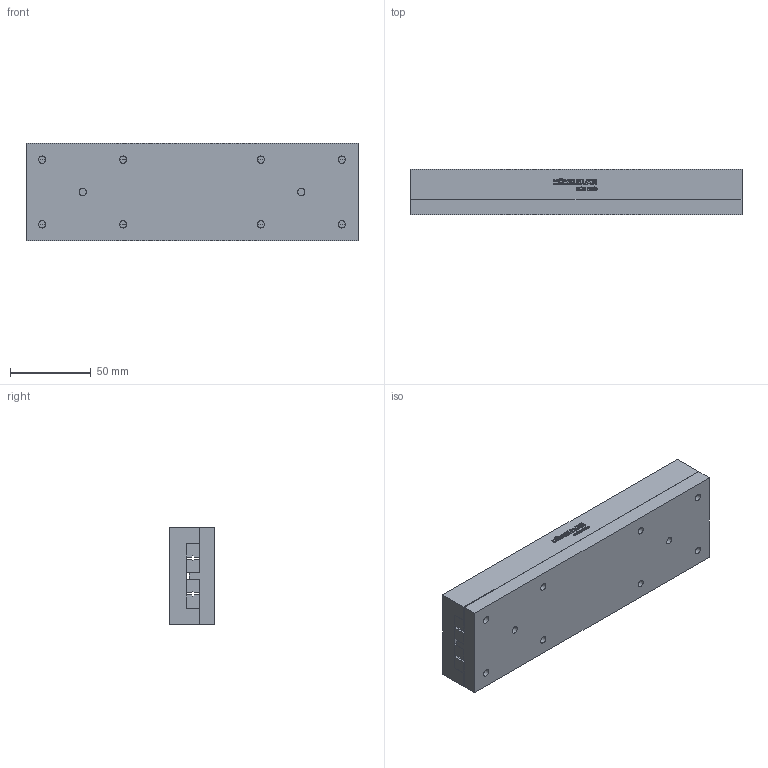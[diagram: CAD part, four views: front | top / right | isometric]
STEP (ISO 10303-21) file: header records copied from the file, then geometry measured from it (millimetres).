
FILE_DESCRIPTION(/* description */ ('STEP AP214'),/* implementation_level */ '2;1');
FILE_NAME(/* name */ 'NK 3-205-B(0)',/* time_stamp */ '2025-04-22T17:49:21+02:00',/* author */ ('License CC BY-ND 4.0'),/* organization */ ('CADENAS'),/* preprocessor_version */ 'ST-DEVELOPER v19.3',/* originating_system */ 'PARTsolutions',/* authorisation */ ' ');
FILE_SCHEMA (('AUTOMOTIVE_DESIGN {1 0 10303 214 3 1 1}'));
Length unit declared in the file: millimetre
Products named in the file (3): NK 3-205-B(0); NK 3-205-B_1; NK 3-205-B_2
Assembly tree (2 placements, depth 2):
  NK 3-205-B(0)
    NK 3-205-B_1
    NK 3-205-B_2
Bounding box: 205 x 28 x 60 mm (x, y, z)
Volume: 332233.4 mm3; surface area: 86852.3 mm2
Topology: 2 solids, 2 shells, 647 faces, 1832 edges, 1214 vertices
Faces by surface type: cylinder 326, plane 293, cone 28
Full cylindrical faces by diameter (mm): 3.242 x14, 4.5 x10, 7.5 x10
Entity records: 21037 total; most frequent: DIRECTION 3764, CARTESIAN_POINT 3704, ORIENTED_EDGE 3540, EDGE_CURVE 1770, AXIS2_PLACEMENT_3D 1372, VERTEX_POINT 1200, LINE 1020, VECTOR 1020
